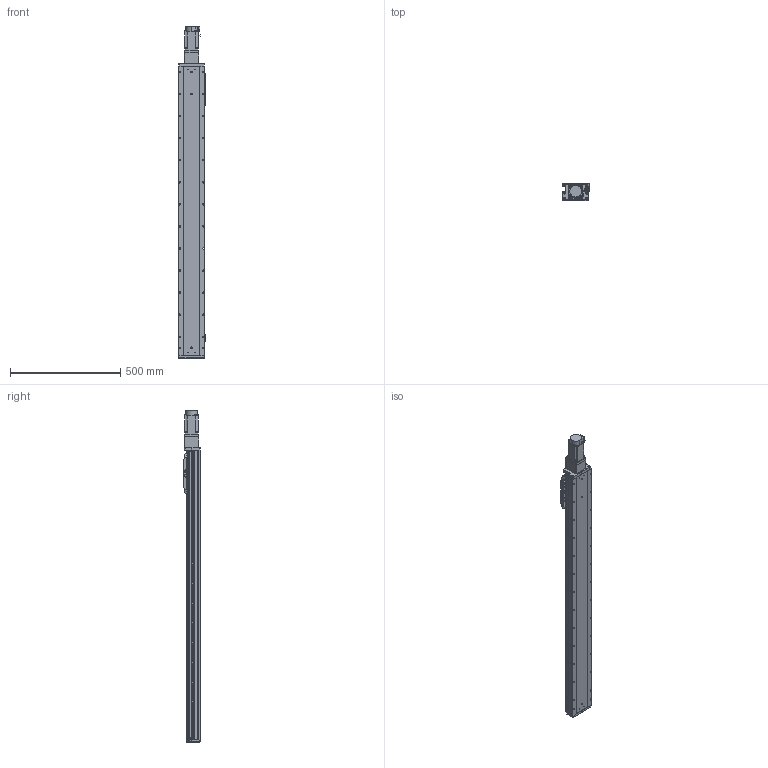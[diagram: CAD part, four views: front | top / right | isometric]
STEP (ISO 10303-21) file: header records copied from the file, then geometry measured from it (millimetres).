
FILE_DESCRIPTION (( 'STEP AP203' ), '1' );
FILE_NAME ('GTH12-1100-BC-M40-C4.step', '2022-09-23T01:13:32', ( '微软用户' ), ( '微软中国' ), 'SwSTEP 2.0', 'SolidWorks 2020', '' );
FILE_SCHEMA (( 'CONFIG_CONTROL_DESIGN' ));
Length unit declared in the file: millimetre
Products named in the file (19): GTH80-022; CTHA86-013; GTH120-006; GTH80-028; CTHA86-027; GTH120-004; GTH50-023; hg-kn43j_-s100_; GTH120-013; GTH50-024; GTH12-1100-BC-M40-C4; GBT 70.1-M3℅6; GBT96.1-2002 3×0.8; GBT 70.1-M5×16; BTH-M3X5X6; GTH120-003; GTH120-001_1100; GBT 70.3-M3℅8; CTHA86-006-1_CTHA86-006-2
Assembly tree (62 placements, depth 2):
  GTH12-1100-BC-M40-C4
    GTH120-001_1100
    GTH120-003
    GTH120-006
    GTH120-004
    GTH120-013
    GBT 70.1-M3℅6  x14
    GBT 70.1-M5×16  x10
    GBT 70.3-M3℅8  x6
    GTH80-022
    GTH80-028  x2
    GTH50-023  x3
    GTH50-024  x3
    GBT96.1-2002 3×0.8  x6
    BTH-M3X5X6  x8
    CTHA86-006-1_CTHA86-006-2
    CTHA86-013
    CTHA86-027
    hg-kn43j_-s100_
Bounding box: 125.7 x 76 x 1503.7 mm (x, y, z)
Volume: 9613375.4 mm3; surface area: 805911 mm2
Topology: 64 solids, 64 shells, 2579 faces, 6018 edges, 3671 vertices
Faces by surface type: plane 1296, cylinder 754, cone 351, torus 170, sphere 8
Entity records: 47879 total; most frequent: DIRECTION 8048, CARTESIAN_POINT 7716, ORIENTED_EDGE 7418, EDGE_CURVE 3709, AXIS2_PLACEMENT_3D 2812, VECTOR 2424, LINE 2424, VERTEX_POINT 2330
